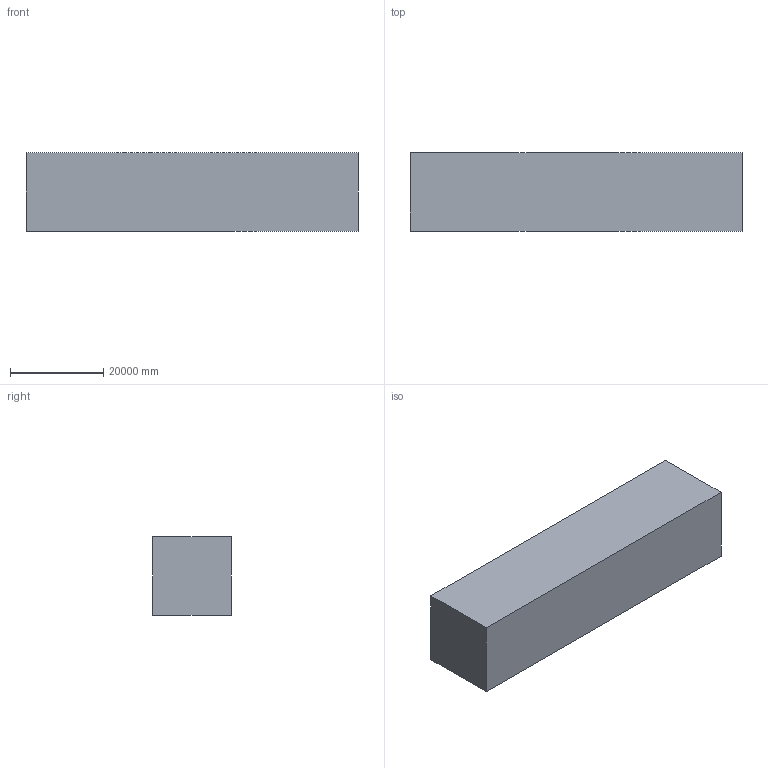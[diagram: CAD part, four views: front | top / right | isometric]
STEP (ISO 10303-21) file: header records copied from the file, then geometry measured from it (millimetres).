
FILE_DESCRIPTION((''),'2;1');
FILE_NAME('E:\Manuals\Autodesk Algor Simulation CFD (953)\2011\Exercise B.step','2010-02-09T10:24:36',('stefanj'),(''),'Autodesk Inventor 2010','Autodesk Inventor 2010','');
FILE_SCHEMA(('CONFIG_CONTROL_DESIGN'));
Length unit declared in the file: inch
Products named in the file (1): Exercise B
Bounding box: 71120 x 16764 x 16764 mm (x, y, z)
Volume: 19163170403017.2 mm3; surface area: 5647168249.1 mm2
Topology: 1 solids, 1 shells, 16 faces, 39 edges, 26 vertices
Faces by surface type: plane 16
Entity records: 515 total; most frequent: CARTESIAN_POINT 82, ORIENTED_EDGE 78, DIRECTION 73, VECTOR 39, LINE 39, EDGE_CURVE 39, VERTEX_POINT 26, AXIS2_PLACEMENT_3D 17
